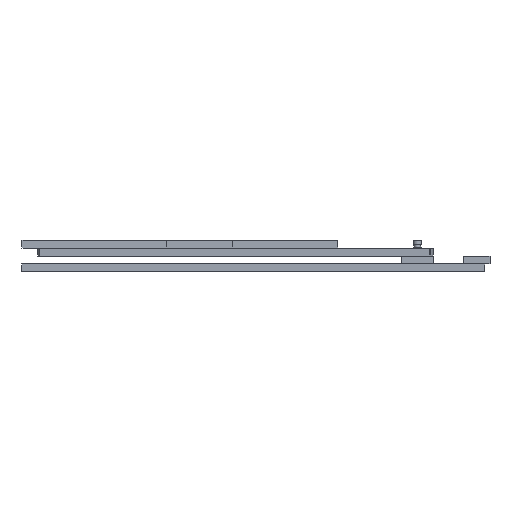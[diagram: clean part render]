
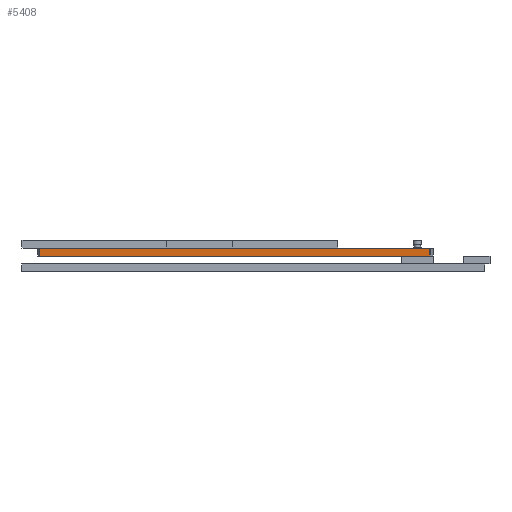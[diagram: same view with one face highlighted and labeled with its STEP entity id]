
A CAD part, left-side view. The second image highlights one B-rep face of the part: STEP entity #5408.
In plain terms, the highlighted planar face has unit normal (-0.999, 0.054, 0).
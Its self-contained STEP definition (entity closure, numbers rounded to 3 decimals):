
#4605 = PLANE('',#4606);
#4606 = AXIS2_PLACEMENT_3D('',#4607,#4608,#4609);
#4607 = CARTESIAN_POINT('',(5.719,-5.319,9.));
#4608 = DIRECTION('',(0.,0.,1.));
#4609 = DIRECTION('',(0.054,0.999,0.));
#4661 = PLANE('',#4662);
#4662 = AXIS2_PLACEMENT_3D('',#4663,#4664,#4665);
#4663 = CARTESIAN_POINT('',(5.719,-5.319,6.));
#4664 = DIRECTION('',(0.,0.,1.));
#4665 = DIRECTION('',(0.054,0.999,0.));
#4782 = VERTEX_POINT('',#4783);
#4783 = CARTESIAN_POINT('',(1.781,142.819,9.));
#4797 = PLANE('',#4798);
#4798 = AXIS2_PLACEMENT_3D('',#4799,#4800,#4801);
#4799 = CARTESIAN_POINT('',(13.763,142.166,6.));
#4800 = DIRECTION('',(0.054,0.999,0.));
#4801 = DIRECTION('',(0.,0.,1.));
#4809 = EDGE_CURVE('',#4782,#4810,#4812,.T.);
#4810 = VERTEX_POINT('',#4811);
#4811 = CARTESIAN_POINT('',(-6.263,-4.666,9.));
#4812 = SURFACE_CURVE('',#4813,(#4817,#4824),.PCURVE_S1.);
#4813 = LINE('',#4814,#4815);
#4814 = CARTESIAN_POINT('',(1.781,142.819,9.));
#4815 = VECTOR('',#4816,1.);
#4816 = DIRECTION('',(-0.054,-0.999,0.));
#4817 = PCURVE('',#4605,#4818);
#4818 = DEFINITIONAL_REPRESENTATION('',(#4819),#4823);
#4819 = LINE('',#4820,#4821);
#4820 = CARTESIAN_POINT('',(147.704,12.));
#4821 = VECTOR('',#4822,1.);
#4822 = DIRECTION('',(-1.,0.));
#4823 = ( GEOMETRIC_REPRESENTATION_CONTEXT(2) 
PARAMETRIC_REPRESENTATION_CONTEXT() REPRESENTATION_CONTEXT('2D SPACE',''
  ) );
#4824 = PCURVE('',#4825,#4830);
#4825 = PLANE('',#4826);
#4826 = AXIS2_PLACEMENT_3D('',#4827,#4828,#4829);
#4827 = CARTESIAN_POINT('',(-6.263,-4.666,6.));
#4828 = DIRECTION('',(-0.999,0.054,0.));
#4829 = DIRECTION('',(0.,0.,1.));
#4830 = DEFINITIONAL_REPRESENTATION('',(#4831),#4835);
#4831 = LINE('',#4832,#4833);
#4832 = CARTESIAN_POINT('',(3.,147.704));
#4833 = VECTOR('',#4834,1.);
#4834 = DIRECTION('',(0.,-1.));
#4835 = ( GEOMETRIC_REPRESENTATION_CONTEXT(2) 
PARAMETRIC_REPRESENTATION_CONTEXT() REPRESENTATION_CONTEXT('2D SPACE',''
  ) );
#4853 = PLANE('',#4854);
#4854 = AXIS2_PLACEMENT_3D('',#4855,#4856,#4857);
#4855 = CARTESIAN_POINT('',(5.719,-5.319,6.));
#4856 = DIRECTION('',(0.054,0.999,0.));
#4857 = DIRECTION('',(0.,0.,1.));
#5134 = VERTEX_POINT('',#5135);
#5135 = CARTESIAN_POINT('',(1.781,142.819,6.));
#5156 = EDGE_CURVE('',#5157,#5134,#5159,.T.);
#5157 = VERTEX_POINT('',#5158);
#5158 = CARTESIAN_POINT('',(-6.263,-4.666,6.));
#5159 = SURFACE_CURVE('',#5160,(#5164,#5171),.PCURVE_S1.);
#5160 = LINE('',#5161,#5162);
#5161 = CARTESIAN_POINT('',(-6.263,-4.666,6.));
#5162 = VECTOR('',#5163,1.);
#5163 = DIRECTION('',(0.054,0.999,0.));
#5164 = PCURVE('',#4661,#5165);
#5165 = DEFINITIONAL_REPRESENTATION('',(#5166),#5170);
#5166 = LINE('',#5167,#5168);
#5167 = CARTESIAN_POINT('',(0.,12.));
#5168 = VECTOR('',#5169,1.);
#5169 = DIRECTION('',(1.,0.));
#5170 = ( GEOMETRIC_REPRESENTATION_CONTEXT(2) 
PARAMETRIC_REPRESENTATION_CONTEXT() REPRESENTATION_CONTEXT('2D SPACE',''
  ) );
#5171 = PCURVE('',#4825,#5172);
#5172 = DEFINITIONAL_REPRESENTATION('',(#5173),#5177);
#5173 = LINE('',#5174,#5175);
#5174 = CARTESIAN_POINT('',(0.,0.));
#5175 = VECTOR('',#5176,1.);
#5176 = DIRECTION('',(0.,1.));
#5177 = ( GEOMETRIC_REPRESENTATION_CONTEXT(2) 
PARAMETRIC_REPRESENTATION_CONTEXT() REPRESENTATION_CONTEXT('2D SPACE',''
  ) );
#5363 = EDGE_CURVE('',#5157,#4810,#5364,.T.);
#5364 = SURFACE_CURVE('',#5365,(#5369,#5376),.PCURVE_S1.);
#5365 = LINE('',#5366,#5367);
#5366 = CARTESIAN_POINT('',(-6.263,-4.666,6.));
#5367 = VECTOR('',#5368,1.);
#5368 = DIRECTION('',(0.,0.,1.));
#5369 = PCURVE('',#4853,#5370);
#5370 = DEFINITIONAL_REPRESENTATION('',(#5371),#5375);
#5371 = LINE('',#5372,#5373);
#5372 = CARTESIAN_POINT('',(0.,-12.));
#5373 = VECTOR('',#5374,1.);
#5374 = DIRECTION('',(1.,0.));
#5375 = ( GEOMETRIC_REPRESENTATION_CONTEXT(2) 
PARAMETRIC_REPRESENTATION_CONTEXT() REPRESENTATION_CONTEXT('2D SPACE',''
  ) );
#5376 = PCURVE('',#4825,#5377);
#5377 = DEFINITIONAL_REPRESENTATION('',(#5378),#5382);
#5378 = LINE('',#5379,#5380);
#5379 = CARTESIAN_POINT('',(0.,0.));
#5380 = VECTOR('',#5381,1.);
#5381 = DIRECTION('',(1.,0.));
#5382 = ( GEOMETRIC_REPRESENTATION_CONTEXT(2) 
PARAMETRIC_REPRESENTATION_CONTEXT() REPRESENTATION_CONTEXT('2D SPACE',''
  ) );
#5408 = ADVANCED_FACE('',(#5409),#4825,.T.);
#5409 = FACE_BOUND('',#5410,.T.);
#5410 = EDGE_LOOP('',(#5411,#5412,#5413,#5414));
#5411 = ORIENTED_EDGE('',*,*,#5156,.F.);
#5412 = ORIENTED_EDGE('',*,*,#5363,.T.);
#5413 = ORIENTED_EDGE('',*,*,#4809,.F.);
#5414 = ORIENTED_EDGE('',*,*,#5415,.F.);
#5415 = EDGE_CURVE('',#5134,#4782,#5416,.T.);
#5416 = SURFACE_CURVE('',#5417,(#5421,#5428),.PCURVE_S1.);
#5417 = LINE('',#5418,#5419);
#5418 = CARTESIAN_POINT('',(1.781,142.819,6.));
#5419 = VECTOR('',#5420,1.);
#5420 = DIRECTION('',(0.,0.,1.));
#5421 = PCURVE('',#4825,#5422);
#5422 = DEFINITIONAL_REPRESENTATION('',(#5423),#5427);
#5423 = LINE('',#5424,#5425);
#5424 = CARTESIAN_POINT('',(0.,147.704));
#5425 = VECTOR('',#5426,1.);
#5426 = DIRECTION('',(1.,0.));
#5427 = ( GEOMETRIC_REPRESENTATION_CONTEXT(2) 
PARAMETRIC_REPRESENTATION_CONTEXT() REPRESENTATION_CONTEXT('2D SPACE',''
  ) );
#5428 = PCURVE('',#4797,#5429);
#5429 = DEFINITIONAL_REPRESENTATION('',(#5430),#5434);
#5430 = LINE('',#5431,#5432);
#5431 = CARTESIAN_POINT('',(0.,-12.));
#5432 = VECTOR('',#5433,1.);
#5433 = DIRECTION('',(1.,0.));
#5434 = ( GEOMETRIC_REPRESENTATION_CONTEXT(2) 
PARAMETRIC_REPRESENTATION_CONTEXT() REPRESENTATION_CONTEXT('2D SPACE',''
  ) );
